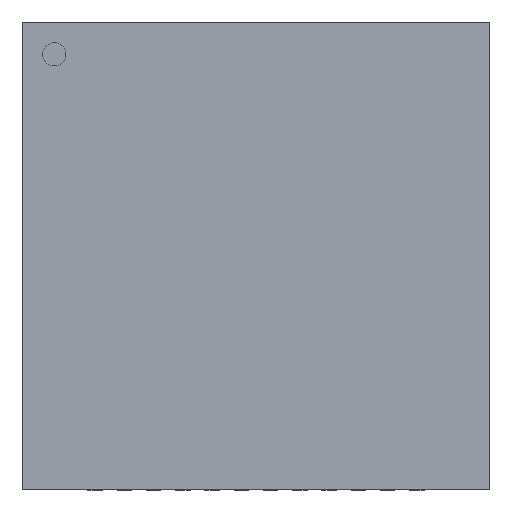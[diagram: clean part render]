
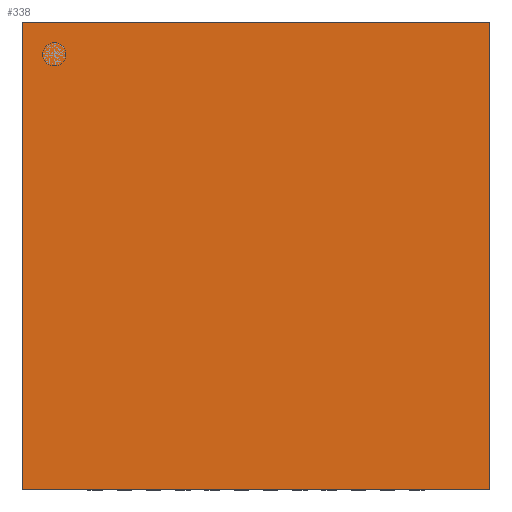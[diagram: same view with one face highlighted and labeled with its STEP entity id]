
A CAD part, top view. The second image highlights one B-rep face of the part: STEP entity #338.
In plain terms, the highlighted planar face has unit normal (0, 0, 1).
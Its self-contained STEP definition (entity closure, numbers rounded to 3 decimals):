
#24 = VERTEX_POINT('',#25);
#25 = CARTESIAN_POINT('',(-4.,-4.,0.85));
#32 = PLANE('',#33);
#33 = AXIS2_PLACEMENT_3D('',#34,#35,#36);
#34 = CARTESIAN_POINT('',(-4.,-4.,0.02));
#35 = DIRECTION('',(1.,0.,-0.));
#36 = DIRECTION('',(0.,0.,1.));
#44 = PLANE('',#45);
#45 = AXIS2_PLACEMENT_3D('',#46,#47,#48);
#46 = CARTESIAN_POINT('',(-4.,-4.,0.02));
#47 = DIRECTION('',(-0.,1.,0.));
#48 = DIRECTION('',(0.,0.,1.));
#85 = VERTEX_POINT('',#86);
#86 = CARTESIAN_POINT('',(-4.,4.,0.85));
#100 = PLANE('',#101);
#101 = AXIS2_PLACEMENT_3D('',#102,#103,#104);
#102 = CARTESIAN_POINT('',(-4.,4.,0.02));
#103 = DIRECTION('',(-0.,1.,0.));
#104 = DIRECTION('',(0.,0.,1.));
#112 = EDGE_CURVE('',#24,#85,#113,.T.);
#113 = SURFACE_CURVE('',#114,(#118,#125),.PCURVE_S1.);
#114 = LINE('',#115,#116);
#115 = CARTESIAN_POINT('',(-4.,-4.,0.85));
#116 = VECTOR('',#117,1.);
#117 = DIRECTION('',(-0.,1.,0.));
#118 = PCURVE('',#32,#119);
#119 = DEFINITIONAL_REPRESENTATION('',(#120),#124);
#120 = LINE('',#121,#122);
#121 = CARTESIAN_POINT('',(0.83,0.));
#122 = VECTOR('',#123,1.);
#123 = DIRECTION('',(0.,-1.));
#124 = ( GEOMETRIC_REPRESENTATION_CONTEXT(2) 
PARAMETRIC_REPRESENTATION_CONTEXT() REPRESENTATION_CONTEXT('2D SPACE',''
  ) );
#125 = PCURVE('',#126,#131);
#126 = PLANE('',#127);
#127 = AXIS2_PLACEMENT_3D('',#128,#129,#130);
#128 = CARTESIAN_POINT('',(-4.,-4.,0.85));
#129 = DIRECTION('',(0.,0.,1.));
#130 = DIRECTION('',(1.,0.,-0.));
#131 = DEFINITIONAL_REPRESENTATION('',(#132),#136);
#132 = LINE('',#133,#134);
#133 = CARTESIAN_POINT('',(0.,0.));
#134 = VECTOR('',#135,1.);
#135 = DIRECTION('',(0.,1.));
#136 = ( GEOMETRIC_REPRESENTATION_CONTEXT(2) 
PARAMETRIC_REPRESENTATION_CONTEXT() REPRESENTATION_CONTEXT('2D SPACE',''
  ) );
#144 = VERTEX_POINT('',#145);
#145 = CARTESIAN_POINT('',(4.,-4.,0.85));
#152 = PLANE('',#153);
#153 = AXIS2_PLACEMENT_3D('',#154,#155,#156);
#154 = CARTESIAN_POINT('',(4.,-4.,0.02));
#155 = DIRECTION('',(1.,0.,-0.));
#156 = DIRECTION('',(0.,0.,1.));
#195 = VERTEX_POINT('',#196);
#196 = CARTESIAN_POINT('',(4.,4.,0.85));
#217 = EDGE_CURVE('',#144,#195,#218,.T.);
#218 = SURFACE_CURVE('',#219,(#223,#230),.PCURVE_S1.);
#219 = LINE('',#220,#221);
#220 = CARTESIAN_POINT('',(4.,-4.,0.85));
#221 = VECTOR('',#222,1.);
#222 = DIRECTION('',(-0.,1.,0.));
#223 = PCURVE('',#152,#224);
#224 = DEFINITIONAL_REPRESENTATION('',(#225),#229);
#225 = LINE('',#226,#227);
#226 = CARTESIAN_POINT('',(0.83,0.));
#227 = VECTOR('',#228,1.);
#228 = DIRECTION('',(0.,-1.));
#229 = ( GEOMETRIC_REPRESENTATION_CONTEXT(2) 
PARAMETRIC_REPRESENTATION_CONTEXT() REPRESENTATION_CONTEXT('2D SPACE',''
  ) );
#230 = PCURVE('',#126,#231);
#231 = DEFINITIONAL_REPRESENTATION('',(#232),#236);
#232 = LINE('',#233,#234);
#233 = CARTESIAN_POINT('',(8.,0.));
#234 = VECTOR('',#235,1.);
#235 = DIRECTION('',(0.,1.));
#236 = ( GEOMETRIC_REPRESENTATION_CONTEXT(2) 
PARAMETRIC_REPRESENTATION_CONTEXT() REPRESENTATION_CONTEXT('2D SPACE',''
  ) );
#263 = EDGE_CURVE('',#24,#144,#264,.T.);
#264 = SURFACE_CURVE('',#265,(#269,#276),.PCURVE_S1.);
#265 = LINE('',#266,#267);
#266 = CARTESIAN_POINT('',(-4.,-4.,0.85));
#267 = VECTOR('',#268,1.);
#268 = DIRECTION('',(1.,0.,-0.));
#269 = PCURVE('',#44,#270);
#270 = DEFINITIONAL_REPRESENTATION('',(#271),#275);
#271 = LINE('',#272,#273);
#272 = CARTESIAN_POINT('',(0.83,0.));
#273 = VECTOR('',#274,1.);
#274 = DIRECTION('',(0.,1.));
#275 = ( GEOMETRIC_REPRESENTATION_CONTEXT(2) 
PARAMETRIC_REPRESENTATION_CONTEXT() REPRESENTATION_CONTEXT('2D SPACE',''
  ) );
#276 = PCURVE('',#126,#277);
#277 = DEFINITIONAL_REPRESENTATION('',(#278),#282);
#278 = LINE('',#279,#280);
#279 = CARTESIAN_POINT('',(0.,0.));
#280 = VECTOR('',#281,1.);
#281 = DIRECTION('',(1.,0.));
#282 = ( GEOMETRIC_REPRESENTATION_CONTEXT(2) 
PARAMETRIC_REPRESENTATION_CONTEXT() REPRESENTATION_CONTEXT('2D SPACE',''
  ) );
#310 = EDGE_CURVE('',#85,#195,#311,.T.);
#311 = SURFACE_CURVE('',#312,(#316,#323),.PCURVE_S1.);
#312 = LINE('',#313,#314);
#313 = CARTESIAN_POINT('',(-4.,4.,0.85));
#314 = VECTOR('',#315,1.);
#315 = DIRECTION('',(1.,0.,-0.));
#316 = PCURVE('',#100,#317);
#317 = DEFINITIONAL_REPRESENTATION('',(#318),#322);
#318 = LINE('',#319,#320);
#319 = CARTESIAN_POINT('',(0.83,0.));
#320 = VECTOR('',#321,1.);
#321 = DIRECTION('',(0.,1.));
#322 = ( GEOMETRIC_REPRESENTATION_CONTEXT(2) 
PARAMETRIC_REPRESENTATION_CONTEXT() REPRESENTATION_CONTEXT('2D SPACE',''
  ) );
#323 = PCURVE('',#126,#324);
#324 = DEFINITIONAL_REPRESENTATION('',(#325),#329);
#325 = LINE('',#326,#327);
#326 = CARTESIAN_POINT('',(0.,8.));
#327 = VECTOR('',#328,1.);
#328 = DIRECTION('',(1.,0.));
#329 = ( GEOMETRIC_REPRESENTATION_CONTEXT(2) 
PARAMETRIC_REPRESENTATION_CONTEXT() REPRESENTATION_CONTEXT('2D SPACE',''
  ) );
#338 = ADVANCED_FACE('',(#339),#126,.T.);
#339 = FACE_BOUND('',#340,.T.);
#340 = EDGE_LOOP('',(#341,#342,#343,#344));
#341 = ORIENTED_EDGE('',*,*,#112,.F.);
#342 = ORIENTED_EDGE('',*,*,#263,.T.);
#343 = ORIENTED_EDGE('',*,*,#217,.T.);
#344 = ORIENTED_EDGE('',*,*,#310,.F.);
